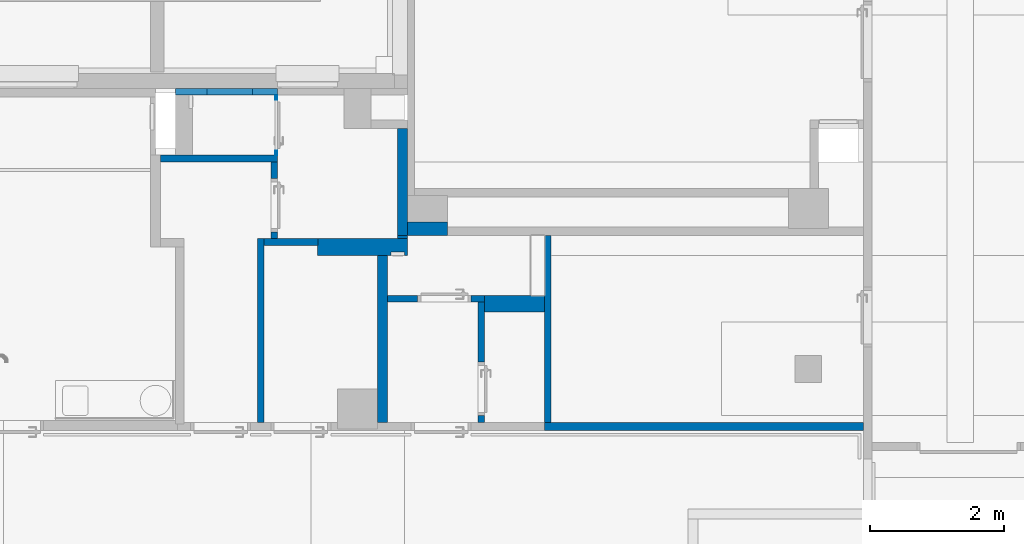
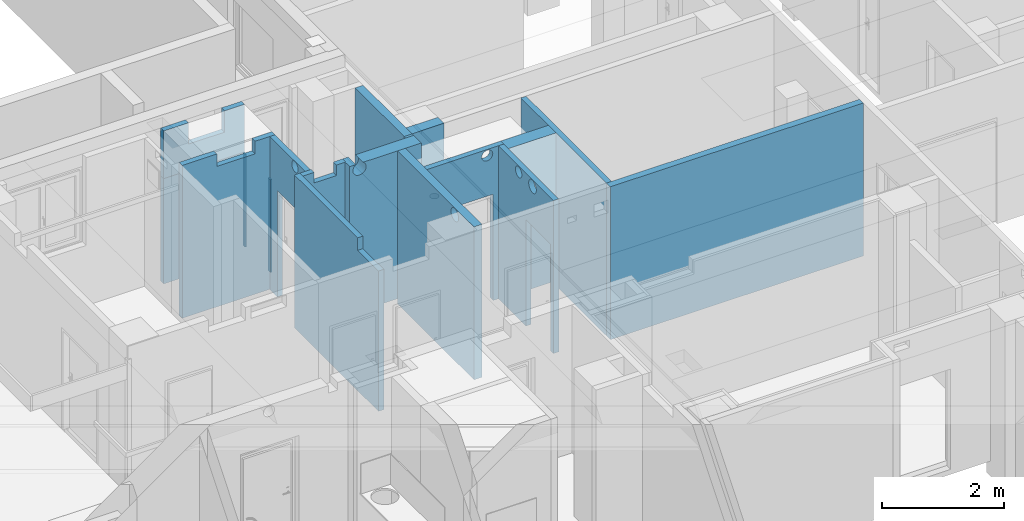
# One storey, part 28 of 84: 17 walls, 15 openings.
"""IFC4 building model written with IfcOpenShell, lengths in metres."""

from ifc_helpers import new_model, entity, si_unit, converted_unit, derived_unit, frame, frame_2d, origin, origin_with_axes, place, context, subcontext, project, spatial, polyline, rectangle, outline, extrude, material, layer, layer_set, layer_usage, element, save


model = new_model("IFC4")

# Units and contexts
model_context = context("Model", 3, precision=1e-05, world=origin())
body_context = subcontext(model_context, "Body", "Model", "MODEL_VIEW")
ifc_project = project(units=[si_unit("LENGTHUNIT", "METRE"), si_unit("AREAUNIT", "SQUARE_METRE"), si_unit("VOLUMEUNIT", "CUBIC_METRE"), si_unit("MASSUNIT", "GRAM", prefix="KILO"), converted_unit("PLANEANGLEUNIT", "DEGREE", entity("IfcPlaneAngleMeasure", 0.0174532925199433), si_unit("PLANEANGLEUNIT", "RADIAN"), dimensions=[0, 0, 0, 0, 0, 0, 0]), derived_unit("THERMALTRANSMITTANCEUNIT", [(si_unit("POWERUNIT", "WATT"), 1), (si_unit("THERMODYNAMICTEMPERATUREUNIT", "KELVIN"), -1), (si_unit("LENGTHUNIT", "METRE"), -2)]), derived_unit("VOLUMETRICFLOWRATEUNIT", [(si_unit("LENGTHUNIT", "METRE"), 3), (converted_unit("TIMEUNIT", "hour", entity("IfcTimeMeasure", 3600.0), si_unit("TIMEUNIT", "SECOND"), dimensions=[0, 0, 1, 0, 0, 0, 0]), -1), (si_unit("LENGTHUNIT", "METRE"), -1)])], contexts=[model_context])

# Site, building, storey
site_placement = place(None, origin())
site = spatial("IfcSite", under=ifc_project, at=site_placement, Name="3. ASŘ", CompositionType="ELEMENT")
building_placement = place(site_placement, origin())
building = spatial("IfcBuilding", under=site, at=building_placement, Name="Pavilon C", CompositionType="ELEMENT")
storey_placement = place(building_placement, frame((0.0, 0.0, -3.3)))
storey = spatial("IfcBuildingStorey", under=building, at=storey_placement, Name="Půdorys 1.PP", CompositionType="ELEMENT", Elevation=-3.3)

# Walls
ifc_material_1 = material(Name="ZDIVO Z CDm")
ifc_layer_1 = layer(ifc_material_1, 0.125)
ifc_layer_set_1 = layer_set([ifc_layer_1])
ifc_layer_usage_1 = layer_usage(ifc_layer_set_1, "AXIS2", "POSITIVE", 0.0)
wall_1_placement = place(storey_placement, frame((26.8, 9.875, -0.1)))
element("IfcWall", 1, at=wall_1_placement, inside=storey, material=ifc_layer_usage_1, Name="ZDIVO Z CDm", context=body_context, shape_type="SweptSolid", body=[
    extrude(rectangle(XDim=4.775, YDim=0.125, at=frame_2d((2.3875, 0.0625), x_axis=(1.0, 0.0))), origin_with_axes(), (0.0, 0.0, 1.0), 3.05),
])
ifc_material_2 = material(Name="PÓROBETONOVÉ ZDIVO")
ifc_layer_2 = layer(ifc_material_2, 0.1)
ifc_layer_set_2 = layer_set([ifc_layer_2])
ifc_layer_usage_2 = layer_usage(ifc_layer_set_2, "AXIS2", "POSITIVE", 0.0)
wall_2_placement = place(storey_placement, frame((26.8, 12.8, -0.1), z_axis=(0.0, 0.0, 1.0), x_axis=(0.0, -1.0, 0.0)))
element("IfcWall", 2, at=wall_2_placement, inside=storey, material=ifc_layer_usage_2, Name="PÓROBETONOVÉ ZDIVO", context=body_context, shape_type="SweptSolid", body=[
    extrude(rectangle(XDim=2.8, YDim=0.1, at=frame_2d((1.4, 0.05), x_axis=(1.0, 0.0))), origin_with_axes(), (0.0, 0.0, 1.0), 3.05),
])
ifc_material_3 = material(Name="ZDIVO Z CDm")
ifc_layer_3 = layer(ifc_material_3, 0.2)
ifc_layer_set_3 = layer_set([ifc_layer_3])
ifc_layer_usage_3 = layer_usage(ifc_layer_set_3, "AXIS2", "POSITIVE", 0.0)
wall_3_placement = place(storey_placement, frame((24.75, 12.8, -0.1)))
element("IfcWall", 3, at=wall_3_placement, inside=storey, material=ifc_layer_usage_3, Name="ZDIVO Z CDm", context=body_context, shape_type="SweptSolid", body=[
    extrude(rectangle(XDim=0.599999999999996, YDim=0.2, at=frame_2d((0.299999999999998, 0.1), x_axis=(1.0, 0.0))), origin_with_axes(), (0.0, 0.0, 1.0), 3.05),
])
ifc_material_4 = material(Name="PÓROBETONOVÉ ZDIVO")
ifc_layer_4 = layer(ifc_material_4, 0.1)
ifc_layer_set_4 = layer_set([ifc_layer_4])
ifc_layer_usage_4 = layer_usage(ifc_layer_set_4, "AXIS2", "POSITIVE", 0.0)
wall_4_placement = place(storey_placement, frame((22.8, 15.0, -0.1), z_axis=(0.0, 0.0, 1.0), x_axis=(-1.0, 0.0, 0.0)))
element("IfcWall", 4, at=wall_4_placement, inside=storey, material=ifc_layer_usage_4, Name="PÓROBETONOVÉ ZDIVO", context=body_context, shape_type="SweptSolid", body=[
    extrude(rectangle(XDim=1.525, YDim=0.1, at=frame_2d((0.7625, 0.05), x_axis=(1.0, 0.0))), origin_with_axes(), (0.0, 0.0, 1.0), 2.1),
])

# Wall, opening
ifc_material_5 = material()
ifc_layer_5 = layer(ifc_material_5, 0.032)
ifc_layer_set_5 = layer_set([ifc_layer_5])
ifc_layer_usage_5 = layer_usage(ifc_layer_set_5, "AXIS2", "POSITIVE", 0.0)
wall_5_placement = place(storey_placement, frame((22.8, 14.0, 0.15), z_axis=(0.0, 0.0, 1.0), x_axis=(0.0, 1.0, 0.0)))
wall_5 = element("IfcWall", 5, at=wall_5_placement, inside=storey, material=ifc_layer_usage_5, Name="SANITARNÍ PŘÍČKA", context=body_context, shape_type="SweptSolid", body=[
    extrude(rectangle(XDim=0.9, YDim=0.032, at=frame_2d((0.45, 0.016), x_axis=(1.0, 0.0))), origin_with_axes(), (0.0, 0.0, 1.0), 1.85),
])
opening_1_placement = place(wall_5_placement, frame((0.0699999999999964, 0.0, -0.15), z_axis=(0.0, 1.0, 0.0), x_axis=(0.0, 0.0, 1.0)))
element("IfcOpeningElement", 6, at=opening_1_placement, cuts=wall_5, Name="Dveřní otvor", ObjectType="Opening", context=body_context, shape_type="SweptSolid", body=[
    extrude(outline(polyline([(0.0, 0.76), (2.0, 0.76), (2.0, 0.0), (0.0, 0.0), (0.0, 0.76)])), origin_with_axes(), (0.0, 0.0, 1.0), 0.032),
])

ifc_material_6 = material(Name="YTONG 100")
ifc_layer_6 = layer(ifc_material_6, 0.1)
ifc_layer_set_6 = layer_set([ifc_layer_6])
ifc_layer_usage_6 = layer_usage(ifc_layer_set_6, "AXIS2", "POSITIVE", 0.0)
wall_6_placement = place(storey_placement, frame((22.8, 15.0, 2.0), z_axis=(0.0, 0.0, 1.0), x_axis=(-1.0, 0.0, 0.0)))
wall_6 = element("IfcWall", 7, at=wall_6_placement, inside=storey, material=ifc_layer_usage_6, Name="YTONG 100", context=body_context, shape_type="SweptSolid", body=[
    extrude(rectangle(XDim=1.525, YDim=0.1, at=frame_2d((0.7625, 0.05), x_axis=(1.0, 0.0))), origin_with_axes(), (0.0, 0.0, 1.0), 0.95),
])
opening_2_placement = place(wall_6_placement, frame((1.05673178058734, 0.1, 0.525), z_axis=(0.0, -1.0, 0.0), x_axis=(0.0, 0.0, 1.0)))
element("IfcOpeningElement", 8, at=opening_2_placement, cuts=wall_6, Name="Prostup stěnou", ObjectType="Opening", context=body_context, shape_type="SweptSolid", body=[
    extrude(outline(polyline([(0.0, 0.68), (0.425, 0.68), (0.425, 0.0), (0.0, 0.0), (0.0, 0.68)])), origin_with_axes(), (0.0, 0.0, 1.0), 0.1),
])

ifc_material_7 = material(Name="SDK - 1 KCE + DVOJITÉ OPLÁŠTĚNÍ")
ifc_layer_7 = layer(ifc_material_7, 0.1)
ifc_layer_set_7 = layer_set([ifc_layer_7])
ifc_layer_usage_7 = layer_usage(ifc_layer_set_7, "AXIS2", "POSITIVE", 0.0)
wall_7_placement = place(storey_placement, frame((22.6, 10.0, -0.1), z_axis=(0.0, 0.0, 1.0), x_axis=(0.0, 1.0, 0.0)))
wall_7 = element("IfcWall", 9, at=wall_7_placement, inside=storey, material=ifc_layer_usage_7, Name="SDK - 1 KCE + DVOJITÉ OPLÁŠTĚNÍ", context=body_context, shape_type="SweptSolid", body=[
    extrude(rectangle(XDim=2.75, YDim=0.1, at=frame_2d((1.375, 0.05), x_axis=(1.0, 0.0))), origin_with_axes(), (0.0, 0.0, 1.0), 3.05),
])
opening_3_placement = place(wall_7_placement, frame((0.679999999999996, 0.1, 2.8), z_axis=(0.0, -1.0, 0.0), x_axis=(0.0, 0.0, 1.0)))
element("IfcOpeningElement", 10, at=opening_3_placement, cuts=wall_7, Name="VZT", ObjectType="Opening", context=body_context, shape_type="SweptSolid", body=[
    extrude(outline(polyline([(0.0, 0.679999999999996), (0.25, 0.679999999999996), (0.25, 0.0), (0.0, 0.0), (0.0, 0.679999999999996)])), origin_with_axes(), (0.0, 0.0, 1.0), 0.1),
])

ifc_material_8 = material(Name="SDK - 1 KCE + DVOJITÉ OPLÁŠTĚNÍ")
ifc_layer_8 = layer(ifc_material_8, 0.1)
ifc_layer_set_8 = layer_set([ifc_layer_8])
ifc_layer_usage_8 = layer_usage(ifc_layer_set_8, "AXIS2", "POSITIVE", 0.0)
wall_8_placement = place(storey_placement, frame((21.05, 13.9, -0.1)))
wall_8 = element("IfcWall", 11, at=wall_8_placement, inside=storey, material=ifc_layer_usage_8, Name="SDK - 1 KCE + DVOJITÉ OPLÁŠTĚNÍ", context=body_context, shape_type="SweptSolid", body=[
    extrude(rectangle(XDim=1.75, YDim=0.1, at=frame_2d((0.875, 0.05), x_axis=(1.0, 0.0))), origin_with_axes(), (0.0, 0.0, 1.0), 3.05),
])
opening_4_placement = place(wall_8_placement, frame((0.651854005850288, 0.0, 2.8), z_axis=(0.0, 1.0, 0.0), x_axis=(0.0, 0.0, 1.0)))
element("IfcOpeningElement", 12, at=opening_4_placement, cuts=wall_8, Name="VZT", ObjectType="Opening", context=body_context, shape_type="SweptSolid", body=[
    extrude(outline(polyline([(0.0, 0.72), (0.25, 0.72), (0.25, 0.0), (0.0, 0.0), (0.0, 0.72)])), origin_with_axes(), (0.0, 0.0, 1.0), 0.1),
])

# Wall
ifc_material_9 = material(Name="SDK INSTAL. PŘDSTĚNA VYSOKÁ")
ifc_layer_9 = layer(ifc_material_9, 0.15)
ifc_layer_set_9 = layer_set([ifc_layer_9])
ifc_layer_usage_9 = layer_usage(ifc_layer_set_9, "AXIS2", "POSITIVE", 0.0)
wall_9_placement = place(storey_placement, frame((24.75, 12.8, 0.0), z_axis=(0.0, 0.0, 1.0), x_axis=(0.0, 1.0, 0.0)))
element("IfcWall", 13, at=wall_9_placement, inside=storey, material=ifc_layer_usage_9, Name="SDK INSTAL. PŘDSTĚNA VYSOKÁ", context=body_context, shape_type="SweptSolid", body=[
    extrude(rectangle(XDim=1.60000000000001, YDim=0.15, at=frame_2d((0.800000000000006, 0.075), x_axis=(1.0, 0.0))), origin_with_axes(), (0.0, 0.0, 1.0), 2.95),
])

# Wall, openings
ifc_material_10 = material(Name="SDK - 1 KCE + DVOJITÉ OPLÁŠTĚNÍ")
ifc_layer_10 = layer(ifc_material_10, 0.1)
ifc_layer_set_10 = layer_set([ifc_layer_10])
ifc_layer_usage_10 = layer_usage(ifc_layer_set_10, "AXIS2", "POSITIVE", 0.0)
wall_10_placement = place(storey_placement, frame((22.7, 13.9, -0.1), z_axis=(0.0, 0.0, 1.0), x_axis=(0.0, -1.0, 0.0)))
wall_10 = element("IfcWall", 14, at=wall_10_placement, inside=storey, material=ifc_layer_usage_10, Name="SDK - 1 KCE + DVOJITÉ OPLÁŠTĚNÍ", context=body_context, shape_type="SweptSolid", body=[
    extrude(rectangle(XDim=1.15, YDim=0.1, at=frame_2d((0.574999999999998, 0.05), x_axis=(1.0, 0.0))), origin_with_axes(), (0.0, 0.0, 1.0), 3.05),
])
opening_5_placement = place(wall_10_placement, frame((1.05, 0.1, 0.0), z_axis=(0.0, -1.0, 0.0), x_axis=(0.0, 0.0, 1.0)))
element("IfcOpeningElement", 15, at=opening_5_placement, cuts=wall_10, Name="Dveřní otvor", ObjectType="Opening", context=body_context, shape_type="SweptSolid", body=[
    extrude(outline(polyline([(0.0, 0.8), (2.12, 0.8), (2.12, 0.0), (0.0, 0.0), (0.0, 0.8)])), origin_with_axes(), (0.0, 0.0, 1.0), 0.1),
])
opening_6_placement = place(wall_10_placement, frame((0.718690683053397, 0.0, 2.84), z_axis=(0.0, 1.0, 0.0), x_axis=(0.0, 0.0, 1.0)))
element("IfcOpeningElement", 16, at=opening_6_placement, cuts=wall_10, Name="VZT", ObjectType="Opening", context=body_context, shape_type="SweptSolid", body=[
    extrude(outline(polyline([(0.10499997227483, 0.0), (0.0940244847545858, 0.000575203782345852), (0.0831692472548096, 0.00229450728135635), (0.072553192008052, 0.00513907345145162), (0.0622926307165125, 0.00907773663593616), (0.0524999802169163, 0.0140673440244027), (0.043282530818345, 0.0200532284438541), (0.0347412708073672, 0.0269698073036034), (0.0269697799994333, 0.0347413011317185), (0.0200532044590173, 0.0432825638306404), (0.0140673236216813, 0.0525000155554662), (0.00907772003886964, 0.0622926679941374), (0.00513906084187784, 0.0725532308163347), (0.00229449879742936, 0.0831692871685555), (0.000575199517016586, 0.0940245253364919), (0.0, 0.105000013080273), (0.000575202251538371, 0.115975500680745), (0.00229450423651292, 0.12683073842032), (0.00513906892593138, 0.137446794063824), (0.00907773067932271, 0.147707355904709), (0.0140673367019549, 0.157500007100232), (0.0200532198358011, 0.166717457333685), (0.0269697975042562, 0.175258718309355), (0.0347412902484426, 0.183030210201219), (0.0432825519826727, 0.189946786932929), (0.0525000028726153, 0.195932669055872), (0.0622926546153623, 0.200922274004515), (0.072553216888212, 0.204860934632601), (0.0831692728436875, 0.207705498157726), (0.0940245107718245, 0.209424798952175), (0.104999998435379, 0.21), (0.115975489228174, 0.209424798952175), (0.126830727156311, 0.207705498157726), (0.137446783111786, 0.204860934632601), (0.147707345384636, 0.200922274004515), (0.157499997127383, 0.195932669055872), (0.166717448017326, 0.189946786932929), (0.175258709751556, 0.183030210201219), (0.183030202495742, 0.175258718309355), (0.189946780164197, 0.166717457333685), (0.195932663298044, 0.157500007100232), (0.200922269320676, 0.147707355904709), (0.204860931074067, 0.137446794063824), (0.207705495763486, 0.12683073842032), (0.20942479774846, 0.115975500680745), (0.209999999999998, 0.105000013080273), (0.209424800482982, 0.0940245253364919), (0.207705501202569, 0.0831692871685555), (0.204860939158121, 0.0725532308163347), (0.200922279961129, 0.0622926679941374), (0.195932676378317, 0.0525000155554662), (0.189946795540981, 0.0432825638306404), (0.183030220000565, 0.0347413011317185), (0.175258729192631, 0.0269698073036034), (0.166717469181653, 0.0200532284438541), (0.157500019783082, 0.0140673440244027), (0.147707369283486, 0.00907773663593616), (0.137446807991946, 0.00513907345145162), (0.126830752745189, 0.00229450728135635), (0.115975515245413, 0.000575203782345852), (0.10499997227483, 0.0)])), origin_with_axes(), (0.0, 0.0, 1.0), 0.1),
])

# Wall, opening
ifc_material_11 = material(Name="SDK - 1 KCE + DVOJITÉ OPLÁŠTĚNÍ")
ifc_layer_11 = layer(ifc_material_11, 0.15)
ifc_layer_set_11 = layer_set([ifc_layer_11])
ifc_layer_usage_11 = layer_usage(ifc_layer_set_11, "AXIS2", "POSITIVE", 0.0)
wall_11_placement = place(storey_placement, frame((24.3, 12.5, -0.1), z_axis=(0.0, 0.0, 1.0), x_axis=(0.0, -1.0, 0.0)))
wall_11 = element("IfcWall", 17, at=wall_11_placement, inside=storey, material=ifc_layer_usage_11, Name="SDK - 1 KCE + DVOJITÉ OPLÁŠTĚNÍ", context=body_context, shape_type="SweptSolid", body=[
    extrude(rectangle(XDim=2.5, YDim=0.15, at=frame_2d((1.25, 0.075), x_axis=(1.0, 0.0))), origin_with_axes(), (0.0, 0.0, 1.0), 3.05),
])
opening_7_placement = place(wall_11_placement, frame((1.75, 0.0, 2.79), z_axis=(0.0, 1.0, 0.0), x_axis=(0.0, 0.0, 1.0)))
element("IfcOpeningElement", 18, at=opening_7_placement, cuts=wall_11, Name="VZT", ObjectType="Opening", context=body_context, shape_type="SweptSolid", body=[
    extrude(outline(polyline([(0.124999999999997, 0.0), (0.11193394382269, 0.000684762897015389), (0.0990110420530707, 0.00273154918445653), (0.0863728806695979, 0.00611793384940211), (0.0741579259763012, 0.0108068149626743), (0.0625000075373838, 0.0167468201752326), (0.0515268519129, 0.0238728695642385), (0.0413586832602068, 0.0321068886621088), (0.0321069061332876, 0.0413586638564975), (0.0238728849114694, 0.0515268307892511), (0.0167468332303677, 0.0624999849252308), (0.0108068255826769, 0.0741579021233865), (0.0061179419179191, 0.0863728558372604), (0.00273155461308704, 0.0990110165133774), (0.000684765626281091, 0.11193391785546), (0.0, 0.124999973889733), (0.000684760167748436, 0.138066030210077), (0.00273154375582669, 0.150988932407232), (0.00611792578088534, 0.163627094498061), (0.0108068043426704, 0.175842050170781), (0.0167468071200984, 0.18749996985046), (0.0238728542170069, 0.198473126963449), (0.0321068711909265, 0.208641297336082), (0.0413586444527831, 0.217893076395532), (0.0515268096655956, 0.226127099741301), (0.062499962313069, 0.233253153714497), (0.0741578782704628, 0.239193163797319), (0.0863728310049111, 0.243882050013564), (0.0990109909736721, 0.247268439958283), (0.111933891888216, 0.249315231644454), (0.124999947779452, 0.25), (0.138066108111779, 0.249315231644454), (0.150989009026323, 0.247268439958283), (0.163627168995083, 0.243882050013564), (0.175842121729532, 0.239193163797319), (0.187500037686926, 0.233253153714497), (0.198473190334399, 0.226127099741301), (0.208641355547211, 0.217893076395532), (0.217893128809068, 0.208641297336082), (0.226127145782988, 0.198473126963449), (0.233253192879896, 0.18749996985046), (0.239193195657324, 0.175842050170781), (0.243882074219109, 0.163627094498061), (0.247268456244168, 0.150988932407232), (0.249315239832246, 0.138066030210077), (0.249999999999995, 0.124999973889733), (0.249315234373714, 0.11193391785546), (0.247268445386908, 0.0990110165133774), (0.243882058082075, 0.0863728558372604), (0.239193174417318, 0.0741579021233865), (0.233253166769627, 0.0624999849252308), (0.226127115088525, 0.0515268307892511), (0.217893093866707, 0.0413586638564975), (0.208641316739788, 0.0321068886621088), (0.198473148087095, 0.0238728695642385), (0.187499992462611, 0.0167468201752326), (0.175842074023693, 0.0108068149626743), (0.163627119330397, 0.00611793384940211), (0.150988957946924, 0.00273154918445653), (0.138066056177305, 0.000684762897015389), (0.124999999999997, 0.0)])), origin_with_axes(), (0.0, 0.0, 1.0), 0.15),
])

# Wall, openings
ifc_material_12 = material(Name="SDK - 1 KCE + DVOJITÉ OPLÁŠTĚNÍ")
ifc_layer_12 = layer(ifc_material_12, 0.1)
ifc_layer_set_12 = layer_set([ifc_layer_12])
ifc_layer_usage_12 = layer_usage(ifc_layer_set_12, "AXIS2", "POSITIVE", 0.0)
wall_12_placement = place(storey_placement, frame((25.9, 11.9, -0.1), z_axis=(0.0, 0.0, 1.0), x_axis=(-1.0, 0.0, 0.0)))
wall_12 = element("IfcWall", 19, at=wall_12_placement, inside=storey, material=ifc_layer_usage_12, Name="SDK - 1 KCE + DVOJITÉ OPLÁŠTĚNÍ", context=body_context, shape_type="SweptSolid", body=[
    extrude(rectangle(XDim=1.45, YDim=0.1, at=frame_2d((0.725, 0.05), x_axis=(1.0, 0.0))), origin_with_axes(), (0.0, 0.0, 1.0), 3.05),
])
opening_8_placement = place(wall_12_placement, frame((1.0, 0.1, 0.0), z_axis=(0.0, -1.0, 0.0), x_axis=(0.0, 0.0, 1.0)))
element("IfcOpeningElement", 20, at=opening_8_placement, cuts=wall_12, Name="Dveřní otvor", ObjectType="Opening", context=body_context, shape_type="SweptSolid", body=[
    extrude(outline(polyline([(0.0, 0.8), (2.12, 0.8), (2.12, 0.0), (0.0, 0.0), (0.0, 0.8)])), origin_with_axes(), (0.0, 0.0, 1.0), 0.1),
])
opening_9_placement = place(wall_12_placement, frame((0.205867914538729, 0.0, 2.825), z_axis=(0.0, 1.0, 0.0), x_axis=(0.0, 0.0, 1.0)))
element("IfcOpeningElement", 21, at=opening_9_placement, cuts=wall_12, Name="VZT", ObjectType="Opening", context=body_context, shape_type="SweptSolid", body=[
    extrude(outline(polyline([(0.105, 0.21), (0.115975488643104, 0.209424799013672), (0.126830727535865, 0.207705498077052), (0.137446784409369, 0.204860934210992), (0.147707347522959, 0.200922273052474), (0.1575, 0.195932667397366), (0.16671745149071, 0.189946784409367), (0.17525871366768, 0.183030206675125), (0.183030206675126, 0.175258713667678), (0.189946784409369, 0.166717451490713), (0.195932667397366, 0.1575), (0.200922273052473, 0.147707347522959), (0.204860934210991, 0.137446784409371), (0.20770549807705, 0.126830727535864), (0.209424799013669, 0.115975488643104), (0.21, 0.105), (0.209424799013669, 0.0940245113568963), (0.20770549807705, 0.0831692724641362), (0.204860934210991, 0.0725532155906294), (0.200922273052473, 0.062292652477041), (0.195932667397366, 0.0524999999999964), (0.18994678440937, 0.0432825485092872), (0.183030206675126, 0.0347412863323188), (0.17525871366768, 0.0269697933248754), (0.16671745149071, 0.0200532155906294), (0.1575, 0.0140673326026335), (0.147707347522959, 0.00907772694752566), (0.13744678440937, 0.00513906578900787), (0.126830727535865, 0.0022945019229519), (0.115975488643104, 0.000575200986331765), (0.105, 0.0), (0.0940245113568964, 0.000575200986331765), (0.0831692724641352, 0.0022945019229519), (0.0725532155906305, 0.00513906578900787), (0.062292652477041, 0.00907772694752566), (0.0525, 0.0140673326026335), (0.0432825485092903, 0.0200532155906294), (0.0347412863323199, 0.0269697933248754), (0.0269697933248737, 0.0347412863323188), (0.0200532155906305, 0.0432825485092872), (0.014067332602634, 0.0524999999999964), (0.00907772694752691, 0.062292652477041), (0.0051390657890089, 0.0725532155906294), (0.00229450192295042, 0.0831692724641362), (0.000575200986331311, 0.0940245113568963), (0.0, 0.105), (0.000575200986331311, 0.115975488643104), (0.00229450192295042, 0.126830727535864), (0.0051390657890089, 0.137446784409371), (0.00907772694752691, 0.147707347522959), (0.014067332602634, 0.1575), (0.0200532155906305, 0.166717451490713), (0.0269697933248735, 0.175258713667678), (0.0347412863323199, 0.183030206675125), (0.0432825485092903, 0.189946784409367), (0.0525, 0.195932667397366), (0.062292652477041, 0.200922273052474), (0.0725532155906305, 0.204860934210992), (0.0831692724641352, 0.207705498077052), (0.0940245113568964, 0.209424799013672), (0.105, 0.21)])), origin_with_axes(), (0.0, 0.0, 1.0), 0.1),
])

ifc_material_13 = material(Name="SDK - 1 KCE + DVOJITÉ OPLÁŠTĚNÍ")
ifc_layer_13 = layer(ifc_material_13, 0.1)
ifc_layer_set_13 = layer_set([ifc_layer_13])
ifc_layer_usage_13 = layer_usage(ifc_layer_set_13, "AXIS2", "POSITIVE", 0.0)
wall_13_placement = place(storey_placement, frame((25.8, 11.8, -0.1), z_axis=(0.0, 0.0, 1.0), x_axis=(0.0, -1.0, 0.0)))
wall_13 = element("IfcWall", 22, at=wall_13_placement, inside=storey, material=ifc_layer_usage_13, Name="SDK - 1 KCE + DVOJITÉ OPLÁŠTĚNÍ", context=body_context, shape_type="SweptSolid", body=[
    extrude(rectangle(XDim=1.8, YDim=0.1, at=frame_2d((0.9, 0.05), x_axis=(1.0, 0.0))), origin_with_axes(), (0.0, 0.0, 1.0), 3.05),
])
opening_10_placement = place(wall_13_placement, frame((0.899999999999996, 0.0, 0.0), z_axis=(0.0, 1.0, 0.0), x_axis=(0.0, 0.0, 1.0)))
element("IfcOpeningElement", 23, at=opening_10_placement, cuts=wall_13, Name="Dveřní otvor", ObjectType="Opening", context=body_context, shape_type="SweptSolid", body=[
    extrude(outline(polyline([(0.0, 0.8), (2.12, 0.8), (2.12, 0.0), (0.0, 0.0), (0.0, 0.8)])), origin_with_axes(), (0.0, 0.0, 1.0), 0.1),
])
opening_11_placement = place(wall_13_placement, frame((0.557363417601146, 0.0, 2.825), z_axis=(0.0, 1.0, 0.0), x_axis=(0.0, 0.0, 1.0)))
element("IfcOpeningElement", 24, at=opening_11_placement, cuts=wall_13, Name="VZT", ObjectType="Opening", context=body_context, shape_type="SweptSolid", body=[
    extrude(outline(polyline([(0.10499997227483, 0.0), (0.0940244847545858, 0.000575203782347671), (0.0831692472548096, 0.00229450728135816), (0.072553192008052, 0.00513907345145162), (0.0622926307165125, 0.00907773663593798), (0.0524999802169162, 0.0140673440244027), (0.043282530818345, 0.0200532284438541), (0.0347412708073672, 0.0269698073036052), (0.0269697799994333, 0.0347413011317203), (0.0200532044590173, 0.0432825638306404), (0.0140673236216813, 0.0525000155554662), (0.00907772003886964, 0.0622926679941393), (0.00513906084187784, 0.0725532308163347), (0.00229449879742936, 0.0831692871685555), (0.000575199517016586, 0.0940245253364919), (0.0, 0.105000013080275), (0.000575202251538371, 0.115975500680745), (0.00229450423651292, 0.12683073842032), (0.00513906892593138, 0.137446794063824), (0.00907773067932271, 0.147707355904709), (0.0140673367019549, 0.157500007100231), (0.0200532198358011, 0.166717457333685), (0.0269697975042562, 0.175258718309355), (0.0347412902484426, 0.183030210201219), (0.0432825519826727, 0.189946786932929), (0.0525000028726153, 0.195932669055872), (0.0622926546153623, 0.200922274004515), (0.072553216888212, 0.204860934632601), (0.0831692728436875, 0.207705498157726), (0.0940245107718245, 0.209424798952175), (0.104999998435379, 0.21), (0.115975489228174, 0.209424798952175), (0.126830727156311, 0.207705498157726), (0.137446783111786, 0.204860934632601), (0.147707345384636, 0.200922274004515), (0.157499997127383, 0.195932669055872), (0.166717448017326, 0.189946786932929), (0.175258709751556, 0.183030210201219), (0.183030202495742, 0.175258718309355), (0.189946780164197, 0.166717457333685), (0.195932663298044, 0.157500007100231), (0.200922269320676, 0.147707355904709), (0.204860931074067, 0.137446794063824), (0.207705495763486, 0.12683073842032), (0.20942479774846, 0.115975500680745), (0.209999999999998, 0.105000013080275), (0.209424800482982, 0.0940245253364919), (0.207705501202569, 0.0831692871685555), (0.204860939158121, 0.0725532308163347), (0.200922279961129, 0.0622926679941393), (0.195932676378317, 0.0525000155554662), (0.189946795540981, 0.0432825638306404), (0.183030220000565, 0.0347413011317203), (0.175258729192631, 0.0269698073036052), (0.166717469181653, 0.0200532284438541), (0.157500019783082, 0.0140673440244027), (0.147707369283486, 0.00907773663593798), (0.137446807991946, 0.00513907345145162), (0.126830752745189, 0.00229450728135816), (0.115975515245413, 0.000575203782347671), (0.10499997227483, 0.0)])), origin_with_axes(), (0.0, 0.0, 1.0), 0.1),
])
opening_12_placement = place(wall_13_placement, frame((1.23986071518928, 0.1, 2.79), z_axis=(0.0, -1.0, 0.0), x_axis=(0.0, 0.0, 1.0)))
element("IfcOpeningElement", 25, at=opening_12_placement, cuts=wall_13, Name="VZT", ObjectType="Opening", context=body_context, shape_type="SweptSolid", body=[
    extrude(outline(polyline([(0.124999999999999, 0.0), (0.111933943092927, 0.000684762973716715), (0.0990110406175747, 0.00273154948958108), (0.0863728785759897, 0.00611793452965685), (0.0741579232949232, 0.0108068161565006), (0.0625000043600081, 0.0167468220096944), (0.0515268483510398, 0.023872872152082), (0.0413586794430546, 0.0321068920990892), (0.0321069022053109, 0.041358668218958), (0.0238728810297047, 0.0515268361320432), (0.0167468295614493, 0.0624999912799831), (0.010806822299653, 0.0741579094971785), (0.00611793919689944, 0.0863728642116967), (0.00273155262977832, 0.0990110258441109), (0.000684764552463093, 0.111933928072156), (0.0, 0.124999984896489), (0.000684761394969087, 0.138066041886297), (0.00273154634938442, 0.15098894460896), (0.00611792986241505, 0.163627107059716), (0.0108068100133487, 0.175842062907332), (0.0167468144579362, 0.187499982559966), (0.0238728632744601, 0.198473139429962), (0.0321068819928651, 0.208641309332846), (0.0413586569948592, 0.217893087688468), (0.051526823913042, 0.226127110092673), (0.0624999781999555, 0.233253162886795), (0.074157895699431, 0.239193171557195), (0.0863728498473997, 0.243882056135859), (0.0990110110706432, 0.247268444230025), (0.111933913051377, 0.249315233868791), (0.124999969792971, 0.25), (0.138066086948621, 0.249315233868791), (0.150988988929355, 0.247268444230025), (0.163627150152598, 0.243882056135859), (0.175842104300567, 0.239193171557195), (0.187500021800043, 0.233253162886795), (0.198473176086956, 0.226127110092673), (0.208641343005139, 0.217893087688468), (0.217893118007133, 0.208641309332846), (0.226127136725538, 0.198473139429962), (0.233253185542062, 0.187499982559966), (0.23919318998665, 0.175842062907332), (0.243882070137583, 0.163627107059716), (0.247268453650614, 0.15098894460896), (0.249315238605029, 0.138066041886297), (0.249999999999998, 0.124999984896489), (0.249315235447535, 0.111933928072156), (0.24726844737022, 0.0990110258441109), (0.243882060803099, 0.0863728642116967), (0.239193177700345, 0.0741579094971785), (0.233253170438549, 0.0624999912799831), (0.226127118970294, 0.0515268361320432), (0.217893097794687, 0.041358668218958), (0.208641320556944, 0.0321068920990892), (0.198473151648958, 0.023872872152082), (0.18749999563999, 0.0167468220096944), (0.175842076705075, 0.0108068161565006), (0.163627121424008, 0.00611793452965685), (0.150988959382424, 0.00273154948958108), (0.138066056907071, 0.000684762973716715), (0.124999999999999, 0.0)])), origin_with_axes(), (0.0, 0.0, 1.0), 0.1),
])

# Wall
ifc_material_14 = material(Name="SDK - 2 KCE + DVOJITÉ OPLÁŠTĚNÍ")
ifc_layer_14 = layer(ifc_material_14, 0.25)
ifc_layer_set_14 = layer_set([ifc_layer_14])
ifc_layer_usage_14 = layer_usage(ifc_layer_set_14, "AXIS2", "POSITIVE", 0.0)
wall_14_placement = place(storey_placement, frame((26.8, 11.9, 0.0), z_axis=(0.0, 0.0, 1.0), x_axis=(-1.0, 0.0, 0.0)))
element("IfcWall", 26, at=wall_14_placement, inside=storey, material=ifc_layer_usage_14, Name="SDK - 2 KCE + DVOJITÉ OPLÁŠTĚNÍ", context=body_context, shape_type="SweptSolid", body=[
    extrude(rectangle(XDim=0.9, YDim=0.25, at=frame_2d((0.45, 0.125), x_axis=(1.0, 0.0))), origin_with_axes(), (0.0, 0.0, 1.0), 2.95),
])

# Wall, openings
ifc_material_15 = material(Name="SDK - 2 KCE + DVOJITÉ OPLÁŠTĚNÍ")
ifc_layer_15 = layer(ifc_material_15, 0.25)
ifc_layer_set_15 = layer_set([ifc_layer_15])
ifc_layer_usage_15 = layer_usage(ifc_layer_set_15, "AXIS2", "POSITIVE", 0.0)
wall_15_placement = place(storey_placement, frame((24.75, 12.75, 0.0), z_axis=(0.0, 0.0, 1.0), x_axis=(-1.0, 0.0, 0.0)))
wall_15 = element("IfcWall", 27, at=wall_15_placement, inside=storey, material=ifc_layer_usage_15, Name="SDK - 2 KCE + DVOJITÉ OPLÁŠTĚNÍ", context=body_context, shape_type="SweptSolid", body=[
    extrude(rectangle(XDim=1.35, YDim=0.25, at=frame_2d((0.675000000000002, 0.125), x_axis=(1.0, 0.0))), origin_with_axes(), (0.0, 0.0, 1.0), 2.95),
])
opening_13_placement = place(wall_15_placement, frame((0.25, 0.25, 1.0), z_axis=(0.0, -1.0, 0.0), x_axis=(0.0, 0.0, 1.0)))
element("IfcOpeningElement", 28, at=opening_13_placement, cuts=wall_15, Name="Stěnová nika", ObjectType="Opening", context=body_context, shape_type="SweptSolid", body=[
    extrude(outline(polyline([(0.0, 0.2), (0.2, 0.2), (0.2, 0.0), (0.0, 0.0), (0.0, 0.2)])), origin_with_axes(), (0.0, 0.0, 1.0), 0.05),
])
opening_14_placement = place(wall_15_placement, frame((1.04000000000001, 0.0, 2.72), z_axis=(0.0, 1.0, 0.0), x_axis=(0.0, 0.0, 1.0)))
element("IfcOpeningElement", 29, at=opening_14_placement, cuts=wall_15, Name="VZT", ObjectType="Opening", context=body_context, shape_type="SweptSolid", body=[
    extrude(outline(polyline([(0.125, 0.25), (0.138066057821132, 0.249315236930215), (0.150988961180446, 0.247268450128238), (0.163627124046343, 0.243882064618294), (0.175842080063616, 0.239193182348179), (0.187499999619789, 0.233253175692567), (0.19847315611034, 0.226127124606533), (0.20864132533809, 0.21789310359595), (0.217893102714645, 0.208641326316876), (0.226127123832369, 0.198473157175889), (0.233253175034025, 0.187500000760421), (0.239193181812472, 0.175842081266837), (0.243882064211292, 0.163627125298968), (0.247268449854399, 0.150988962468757), (0.249315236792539, 0.138066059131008), (0.25, 0.12500000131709), (0.249315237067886, 0.111933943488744), (0.247268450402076, 0.0990110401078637), (0.243882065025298, 0.0863728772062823), (0.239193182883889, 0.074157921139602), (0.233253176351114, 0.0625000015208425), (0.2261271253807, 0.0515268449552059), (0.217893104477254, 0.0413586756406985), (0.208641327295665, 0.0321068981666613), (0.198473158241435, 0.0238728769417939), (0.187500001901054, 0.0167468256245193), (0.175842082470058, 0.0108068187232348), (0.163627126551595, 0.00611793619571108), (0.150988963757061, 0.00273155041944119), (0.138066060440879, 0.000684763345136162), (0.124999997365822, 0.0), (0.111933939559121, 0.000684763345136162), (0.0990110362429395, 0.00273155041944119), (0.0863728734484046, 0.00611793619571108), (0.0741579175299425, 0.0108068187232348), (0.0624999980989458, 0.0167468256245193), (0.0515268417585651, 0.0238728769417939), (0.0413586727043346, 0.0321068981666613), (0.0321068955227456, 0.0413586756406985), (0.0238728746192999, 0.0515268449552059), (0.0167468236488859, 0.0625000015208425), (0.010806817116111, 0.074157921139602), (0.00611793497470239, 0.0863728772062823), (0.0027315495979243, 0.0990110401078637), (0.000684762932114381, 0.111933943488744), (0.0, 0.12500000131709), (0.000684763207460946, 0.138066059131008), (0.00273155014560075, 0.150988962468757), (0.00611793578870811, 0.163627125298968), (0.0108068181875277, 0.175842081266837), (0.0167468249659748, 0.187500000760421), (0.0238728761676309, 0.198473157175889), (0.0321068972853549, 0.208641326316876), (0.0413586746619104, 0.21789310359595), (0.0515268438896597, 0.226127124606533), (0.0625000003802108, 0.233253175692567), (0.0741579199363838, 0.239193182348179), (0.0863728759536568, 0.243882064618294), (0.0990110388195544, 0.247268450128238), (0.111933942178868, 0.249315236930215), (0.125, 0.25)])), origin_with_axes(), (0.0, 0.0, 1.0), 0.25),
])

# Wall, opening
ifc_material_16 = material(Name="SDK - 1 KCE + DVOJITÉ OPLÁŠTĚNÍ")
ifc_layer_16 = layer(ifc_material_16, 0.1)
ifc_layer_set_16 = layer_set([ifc_layer_16])
ifc_layer_usage_16 = layer_usage(ifc_layer_set_16, "AXIS2", "POSITIVE", 0.0)
wall_16_placement = place(storey_placement, frame((22.6, 12.65, -0.1)))
wall_16 = element("IfcWall", 30, at=wall_16_placement, inside=storey, material=ifc_layer_usage_16, Name="SDK - 1 KCE + DVOJITÉ OPLÁŠTĚNÍ", context=body_context, shape_type="SweptSolid", body=[
    extrude(rectangle(XDim=0.809999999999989, YDim=0.1, at=frame_2d((0.404999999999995, 0.05), x_axis=(1.0, 0.0))), origin_with_axes(), (0.0, 0.0, 1.0), 3.05),
])
opening_15_placement = place(wall_16_placement, frame((0.637127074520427, 0.1, 2.84), z_axis=(0.0, -1.0, 0.0), x_axis=(0.0, 0.0, 1.0)))
element("IfcOpeningElement", 31, at=opening_15_placement, cuts=wall_16, Name="VZT", ObjectType="Opening", context=body_context, shape_type="SweptSolid", body=[
    extrude(outline(polyline([(0.0, 0.42), (0.21, 0.42), (0.21, 0.0), (0.0, 0.0), (0.0, 0.42)])), origin_with_axes(), (0.0, 0.0, 1.0), 0.1),
])

# Wall
ifc_material_17 = material(Name="SDK - 1 KCE + DVOJITÉ OPLÁŠTĚNÍ")
ifc_layer_17 = layer(ifc_material_17, 0.15)
ifc_layer_set_17 = layer_set([ifc_layer_17])
ifc_layer_usage_17 = layer_usage(ifc_layer_set_17, "AXIS2", "POSITIVE", 0.0)
wall_17_placement = place(storey_placement, frame((24.75, 12.75, -0.1), z_axis=(0.0, 0.0, 1.0), x_axis=(0.0, 1.0, 0.0)))
element("IfcWall", 32, at=wall_17_placement, inside=storey, material=ifc_layer_usage_17, Name="SDK - 1 KCE + DVOJITÉ OPLÁŠTĚNÍ", context=body_context, shape_type="SweptSolid", body=[
    extrude(rectangle(XDim=0.0499999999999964, YDim=0.15, at=frame_2d((0.0249999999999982, 0.075), x_axis=(1.0, 0.0))), origin_with_axes(), (0.0, 0.0, 1.0), 3.05),
])

save(model, "model.ifc")
